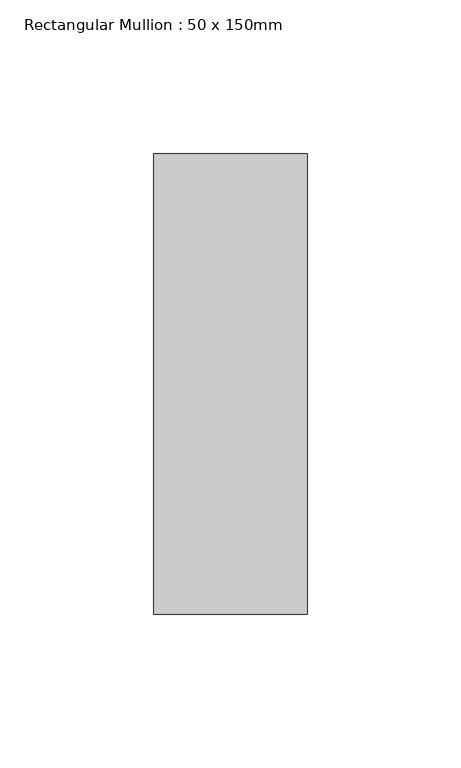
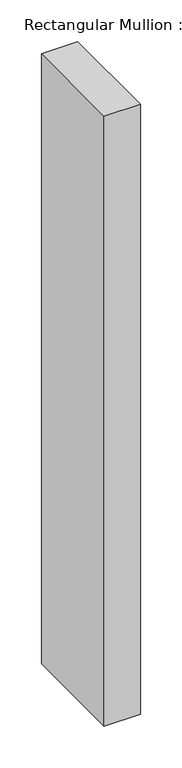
"""IFC4 building model written with IfcOpenShell, lengths in millimetres: member geometry, Rectangular Mullion : 50 x 150mm."""

from ifc_helpers import new_model, si_unit, frame, origin, place, context, project, spatial, polyline, outline, extrude, source, transform, mapped, element, save


def rectangular_mullion_50_x_150mm_a6983a9d(model_context):
    return source(origin(), model_context, "Body", "SweptSolid", [
        extrude(outline(polyline([(0.0, 75.0), (0.0, -75.0), (-50.0, -75.0), (-50.0, 75.0), (0.0, 75.0)])), frame((0.0, 0.0, -891.0682488), z_axis=(0.0, 0.0, 1.0), x_axis=(1.0, 0.0, 0.0)), (0.0, 0.0, 1.0), 891.0682488),
    ])


if __name__ == "__main__":
    model = new_model("IFC4")
    model_context = context("Model", 3, world=origin())
    ifc_project = project(units=[si_unit("LENGTHUNIT", "METRE", prefix="MILLI")], contexts=[model_context])
    site = spatial("IfcSite", under=ifc_project)
    building = spatial("IfcBuilding", under=site)
    placement = place(None, origin())
    rectangular_mullion_50_x_150mm_shape = rectangular_mullion_50_x_150mm_a6983a9d(model_context)
    element("IfcMember", 1, ObjectType="Rectangular Mullion : 50 x 150mm", at=placement, inside=building, context=model_context, shape_type="MappedRepresentation", body=[
        mapped(rectangular_mullion_50_x_150mm_shape, transform((0.0, 0.0, 0.0), x_axis=(1.0, 0.0, 0.0), y_axis=(0.0, 1.0, 0.0), z_axis=(0.0, 0.0, 1.0))),
    ])
    save(model, "model.ifc")
